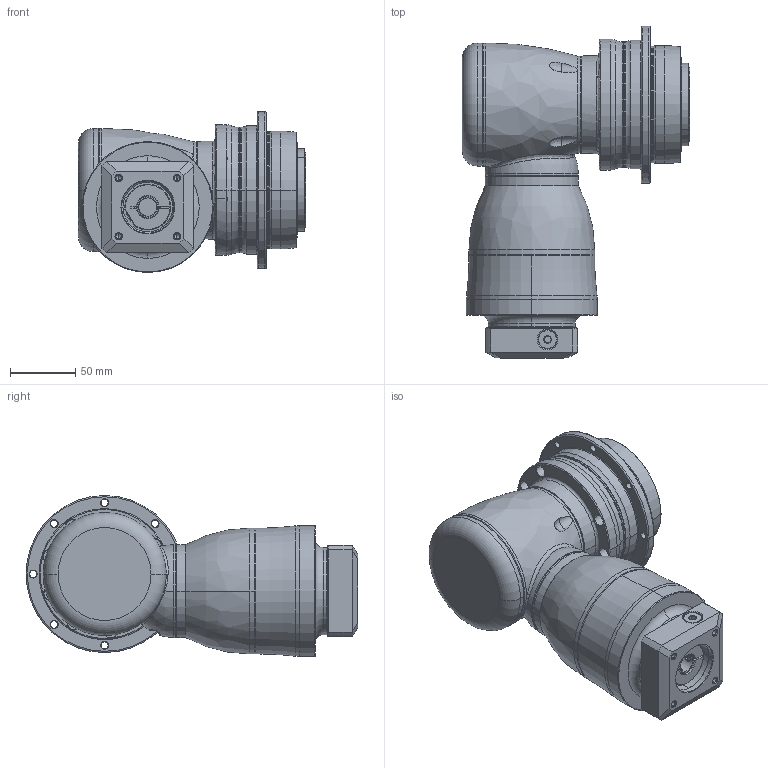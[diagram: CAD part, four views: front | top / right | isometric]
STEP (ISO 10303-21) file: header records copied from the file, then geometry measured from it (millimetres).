
FILE_DESCRIPTION((''),'2;1');
FILE_NAME('AHKB090_3ST_14-P0409300101_ASM','2016-12-12T',('d01943'),(''),'PRO/ENGINEER BY PARAMETRIC TECHNOLOGY CORPORATION, 2008410','PRO/ENGINEER BY PARAMETRIC TECHNOLOGY CORPORATION, 2008410','');
FILE_SCHEMA(('CONFIG_CONTROL_DESIGN'));
Length unit declared in the file: millimetre
Products named in the file (12): P1008300002; P1802300011; P0278300003; P0359300002; P1315300001; P1007300001; P1317300201; P0409300101; P0503300005; P0912202001; 21711410012; AHKB090_3ST_14-P0409300101_ASM
Assembly tree (11 placements, depth 2):
  AHKB090_3ST_14-P0409300101_ASM
    P1008300002
    P1802300011
    P0278300003
    P0359300002
    P1315300001
    P1007300001
    P1317300201
    P0409300101
    P0503300005
    P0912202001
    21711410012
Bounding box: 173.5 x 253.5 x 123 mm (x, y, z)
Volume: 1428793.6 mm3; surface area: 267965.5 mm2
Topology: 12 solids, 12 shells, 993 faces, 2289 edges, 1328 vertices
Faces by surface type: cylinder 350, cone 306, plane 143, torus 128, bspline 64, sphere 2
Entity records: 36511 total; most frequent: CARTESIAN_POINT 14051, DIRECTION 5052, ORIENTED_EDGE 4366, EDGE_CURVE 2183, AXIS2_PLACEMENT_3D 2166, VERTEX_POINT 1322, CIRCLE 1214, EDGE_LOOP 1151
